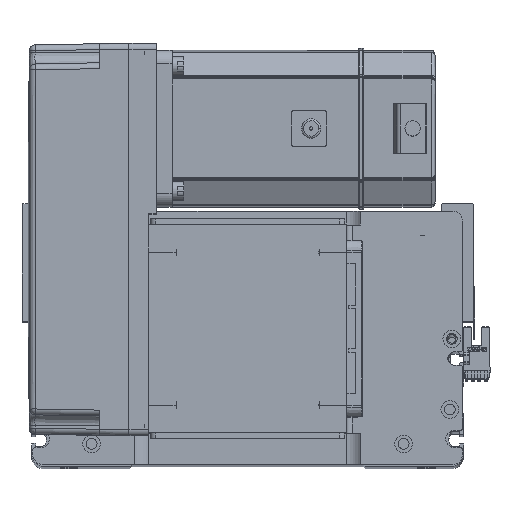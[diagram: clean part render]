
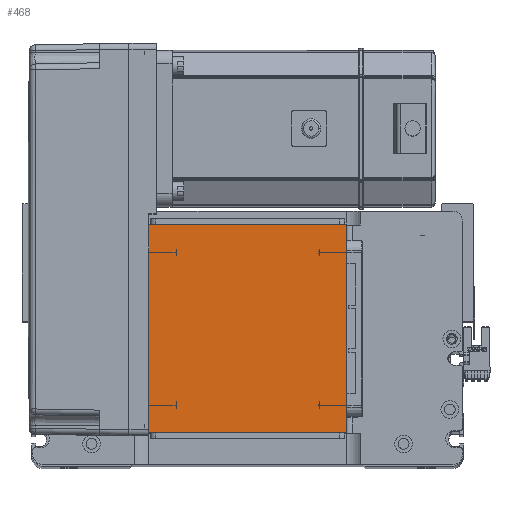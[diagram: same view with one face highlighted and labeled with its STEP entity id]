
A CAD part, top view. The second image highlights one B-rep face of the part: STEP entity #468.
In plain terms, the highlighted planar face has unit normal (0, 0, 1).
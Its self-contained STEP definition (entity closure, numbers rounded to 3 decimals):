
#468 = ADVANCED_FACE ( 'NONE', ( #43915 ), #3008, .T. ) ;
#1348 = DIRECTION ( 'NONE',  ( 0., -1., 0. ) ) ;
#2765 = EDGE_LOOP ( 'NONE', ( #34379, #26246, #47389, #50112 ) ) ;
#3008 = PLANE ( 'NONE',  #41860 ) ;
#4101 = CARTESIAN_POINT ( 'NONE',  ( -50.5, 122., 115. ) ) ;
#4505 = VECTOR ( 'NONE', #13232, 1000. ) ;
#13232 = DIRECTION ( 'NONE',  ( -1., 0., 0. ) ) ;
#15009 = EDGE_CURVE ( 'NONE', #42822, #45266, #31143, .T. ) ;
#15027 = LINE ( 'NONE', #25389, #50513 ) ;
#18443 = VERTEX_POINT ( 'NONE', #36322 ) ;
#20171 = CARTESIAN_POINT ( 'NONE',  ( -50.5, 16., 115. ) ) ;
#23104 = DIRECTION ( 'NONE',  ( 1., 0., 0. ) ) ;
#24383 = VERTEX_POINT ( 'NONE', #4101 ) ;
#24623 = LINE ( 'NONE', #30025, #44732 ) ;
#25389 = CARTESIAN_POINT ( 'NONE',  ( -50.5, 122., 115. ) ) ;
#26246 = ORIENTED_EDGE ( 'NONE', *, *, #15009, .T. ) ;
#27581 = CARTESIAN_POINT ( 'NONE',  ( -50.5, 16., 115. ) ) ;
#30025 = CARTESIAN_POINT ( 'NONE',  ( 50.5, 122., 115. ) ) ;
#31143 = LINE ( 'NONE', #27581, #41451 ) ;
#32784 = CARTESIAN_POINT ( 'NONE',  ( -50.5, 122., 115. ) ) ;
#33107 = EDGE_CURVE ( 'NONE', #18443, #24383, #35843, .T. ) ;
#34379 = ORIENTED_EDGE ( 'NONE', *, *, #38536, .T. ) ;
#35843 = LINE ( 'NONE', #32784, #4505 ) ;
#36322 = CARTESIAN_POINT ( 'NONE',  ( 50.5, 122., 115. ) ) ;
#38536 = EDGE_CURVE ( 'NONE', #24383, #42822, #15027, .T. ) ;
#41451 = VECTOR ( 'NONE', #43294, 1000. ) ;
#41860 = AXIS2_PLACEMENT_3D ( 'NONE', #49962, #46512, #23104 ) ;
#42822 = VERTEX_POINT ( 'NONE', #20171 ) ;
#43294 = DIRECTION ( 'NONE',  ( 1., 0., 0. ) ) ;
#43769 = EDGE_CURVE ( 'NONE', #45266, #18443, #24623, .T. ) ;
#43915 = FACE_OUTER_BOUND ( 'NONE', #2765, .T. ) ;
#44123 = CARTESIAN_POINT ( 'NONE',  ( 50.5, 16., 115. ) ) ;
#44732 = VECTOR ( 'NONE', #45179, 1000. ) ;
#45179 = DIRECTION ( 'NONE',  ( 0., 1., 0. ) ) ;
#45266 = VERTEX_POINT ( 'NONE', #44123 ) ;
#46512 = DIRECTION ( 'NONE',  ( 0., 0., 1. ) ) ;
#47389 = ORIENTED_EDGE ( 'NONE', *, *, #43769, .T. ) ;
#49962 = CARTESIAN_POINT ( 'NONE',  ( 0., 0., 115. ) ) ;
#50112 = ORIENTED_EDGE ( 'NONE', *, *, #33107, .T. ) ;
#50513 = VECTOR ( 'NONE', #1348, 1000. ) ;
